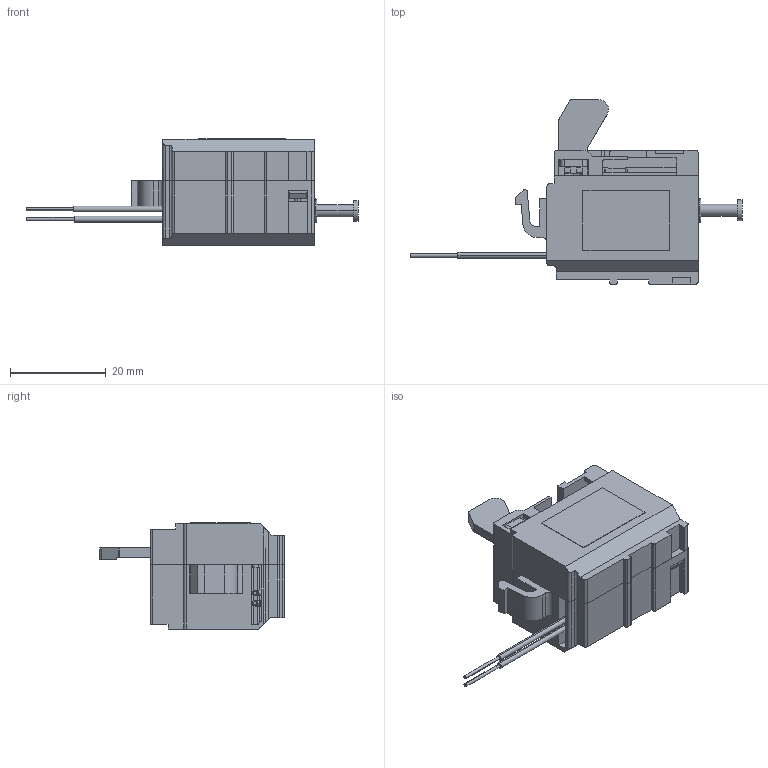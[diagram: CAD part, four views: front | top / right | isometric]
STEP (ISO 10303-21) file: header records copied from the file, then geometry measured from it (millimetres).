
FILE_DESCRIPTION (( 'STEP AP214' ), '1' );
FILE_NAME ('Ðàñöåïèòåëü íåçàâèñèìûé ÃÆÈÊ.684483.020.STEP', '2018-05-31T06:47:31', ( '' ), ( '' ), 'SwSTEP 2.0', 'SolidWorks 2018', '' );
FILE_SCHEMA (( 'AUTOMOTIVE_DESIGN' ));
Length unit declared in the file: millimetre
Products named in the file (9): 唣祛 闷仁.741124.030_熰 儐垔.741124.030; 署赅 闷仁.735313.004_娻腓獱 儐垔.735313.004; 瀔鍒鍱_苂1; 瀔鍒鍱1; Òîëêàòåëü ÃÆÈÊ.741512.010_’®«ª â¥«ì ƒ†ˆŠ.741512.010; ßêîðü ÃÆÈÊ.715111.052_Ÿª®àì ƒ†ˆŠ.715111.052; 暑痫篑 闷仁.735313.005_姰喁汜 儐垔.735313.005; Ðàñöåïèòåëü  íåçàâèñèìûé ÃÆÈÊ.684483.020; 蒡桕弪赅 闷仁.754463.246_濃íモ獱 儐垔.754463.246
Assembly tree (8 placements, depth 2):
  Ðàñöåïèòåëü  íåçàâèñèìûé ÃÆÈÊ.684483.020
    暑痫篑 闷仁.735313.005_姰喁汜 儐垔.735313.005
    ßêîðü ÃÆÈÊ.715111.052_Ÿª®àì ƒ†ˆŠ.715111.052
    Òîëêàòåëü ÃÆÈÊ.741512.010_’®«ª â¥«ì ƒ†ˆŠ.741512.010
    瀔鍒鍱1
    瀔鍒鍱_苂1
    署赅 闷仁.735313.004_娻腓獱 儐垔.735313.004
    唣祛 闷仁.741124.030_熰 儐垔.741124.030
    蒡桕弪赅 闷仁.754463.246_濃íモ獱 儐垔.754463.246
Bounding box: 69.19 x 38.4 x 22.1 mm (x, y, z)
Volume: 6569.2 mm3; surface area: 11980 mm2
Topology: 8 solids, 8 shells, 435 faces, 1203 edges, 784 vertices
Faces by surface type: plane 279, cylinder 120, torus 34, cone 2
Entity records: 17948 total; most frequent: CARTESIAN_POINT 2475, ORIENTED_EDGE 2406, DIRECTION 2382, EDGE_CURVE 1203, VECTOR 888, LINE 888, VERTEX_POINT 784, AXIS2_PLACEMENT_3D 747
